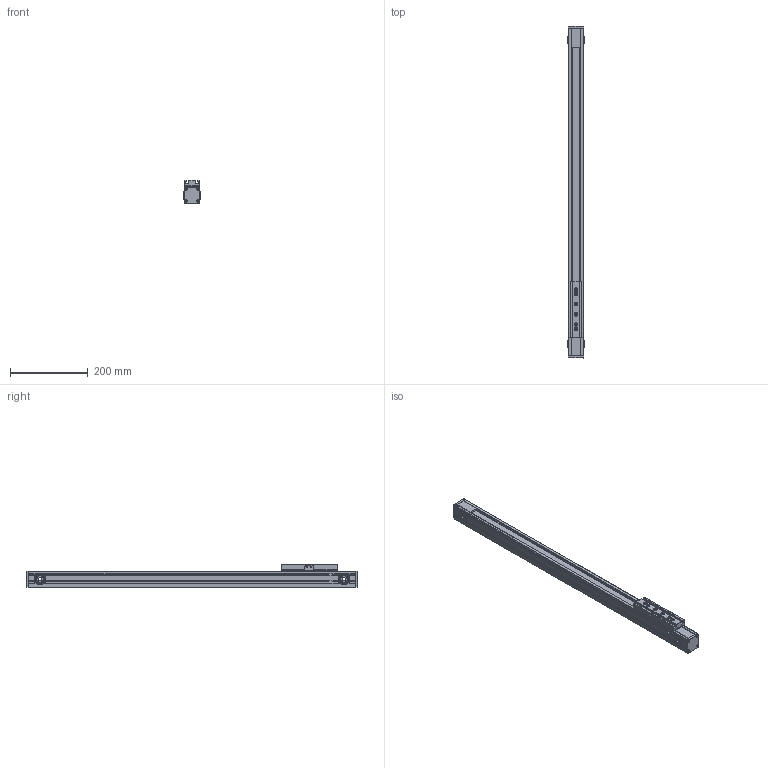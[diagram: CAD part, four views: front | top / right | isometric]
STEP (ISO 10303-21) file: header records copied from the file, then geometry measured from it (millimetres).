
FILE_DESCRIPTION (( 'STEP AP214' ), '1' );
FILE_NAME ('TKR40-600A1-F0-R3-高速内滚轮直线模组.step', '2025-10-10T03:22:16', ( '' ), ( '' ), 'SwSTEP 2.0', 'SolidWorks 2024', '' );
FILE_SCHEMA (( 'AUTOMOTIVE_DESIGN' ));
Length unit declared in the file: millimetre
Products named in the file (3): TKR40-R3-02; TKR40-600-R3-01; TKR40-600A1-F0-R3-高速内滚轮直线模组
Assembly tree (2 placements, depth 2):
  TKR40-600A1-F0-R3-高速内滚轮直线模组
    TKR40-600-R3-01
    TKR40-R3-02
Bounding box: 45 x 852 x 60 mm (x, y, z)
Volume: 678061.5 mm3; surface area: 459216 mm2
Topology: 16 solids, 56 shells, 2702 faces, 7175 edges, 4621 vertices
Faces by surface type: cylinder 1388, plane 792, torus 216, cone 186, bspline 96, sphere 24
Entity records: 146594 total; most frequent: CARTESIAN_POINT 52029, ORIENTED_EDGE 14178, DIRECTION 13212, EDGE_CURVE 7139, AXIS2_PLACEMENT_3D 5104, VERTEX_POINT 4625, LINE 3004, VECTOR 3004
